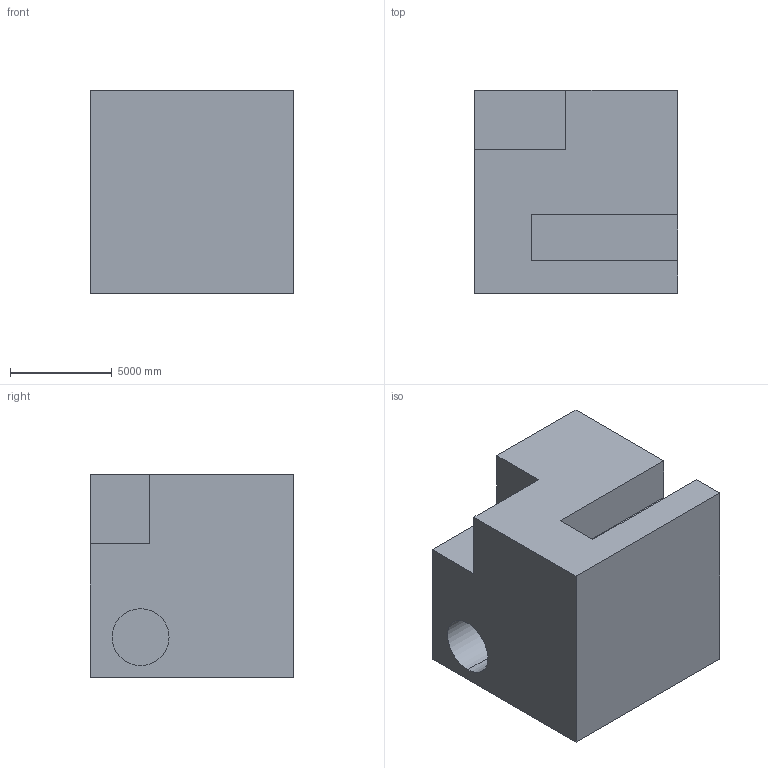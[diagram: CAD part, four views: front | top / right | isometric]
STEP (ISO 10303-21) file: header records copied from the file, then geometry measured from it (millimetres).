
FILE_DESCRIPTION (( 'STEP AP203' ), '1' );
FILE_NAME ('255.STEP', '2022-07-28T14:07:04', ( 'user' ), ( '' ), 'SwSTEP 2.0', 'SolidWorks 2021', '' );
FILE_SCHEMA (( 'CONFIG_CONTROL_DESIGN' ));
Length unit declared in the file: centimetre
Products named in the file (1): 255
Bounding box: 10000 x 10000 x 10000 mm (x, y, z)
Volume: 903621873408.9 mm3; surface area: 654397259.9 mm2
Topology: 1 solids, 1 shells, 16 faces, 39 edges, 26 vertices
Faces by surface type: plane 14, cylinder 2
Entity records: 544 total; most frequent: CARTESIAN_POINT 82, ORIENTED_EDGE 78, DIRECTION 77, EDGE_CURVE 39, LINE 35, VECTOR 35, VERTEX_POINT 26, AXIS2_PLACEMENT_3D 21
